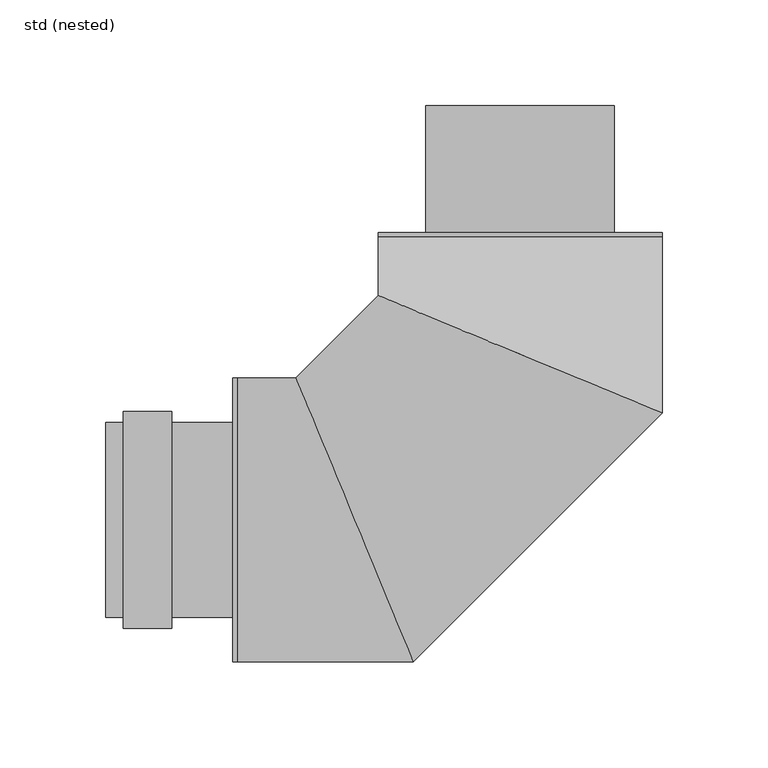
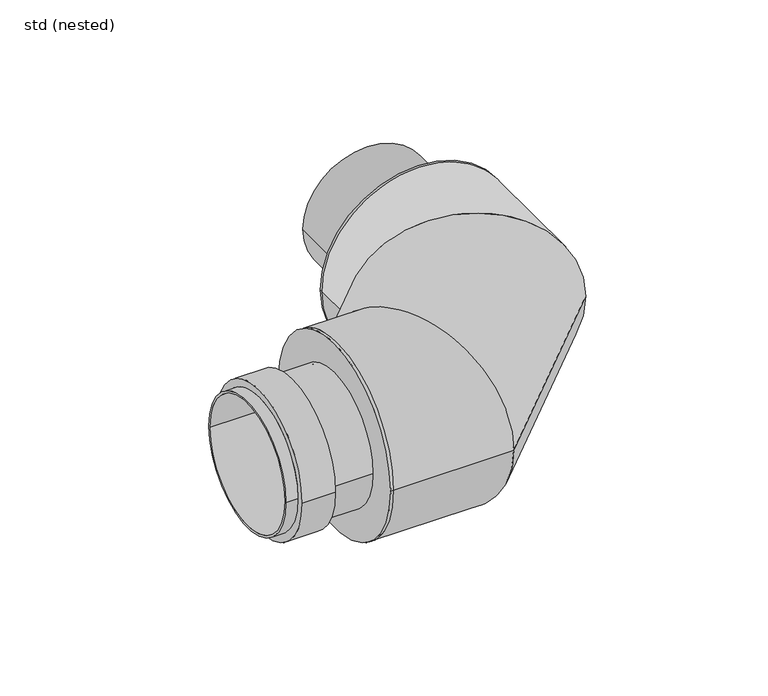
"""IFC4 building model written with IfcOpenShell, lengths in millimetres: pipe fitting geometry, ZZZ_do not use_PIF_ST_WPB_GM-X compound pipe bend_ACO : std (nested)."""

from ifc_helpers import new_model, si_unit, point, frame, origin, origin_2d, place, context, project, spatial, polyline, circle_curve, ellipse_curve, trimmed, segment, composite_curve, outline, extrude, source, transform, mapped, element, save
from ifc_brep_helpers import plane_surface, cylinder_surface, revolved_surface, advanced_brep


def std_nested_0b464fec(model_context):
    return source(origin(), model_context, "Body", "SolidModel", [
        advanced_brep(
        [(-187.4, -51.3, 0.0), (-187.4, 51.3, 0.0), (-164.6, 51.3, 0.0), (-164.6, -51.3, 0.0), (-195.6, 46.0, 0.0), (-195.6, -46.0, 0.0), (-195.6, -44.5, 0.0), (-195.6, 44.5, 0.0), (-135.6, 46.0, 0.0), (-135.6, -46.0, 0.0), (-135.6, 44.5, 0.0), (-135.6, -44.5, 0.0), (-187.4, 46.0, 0.0), (-187.4, -46.0, 0.0), (-164.6, -46.0, 0.0), (-164.6, 46.0, 0.0)],
        [
            (0, 1, circle_curve(frame((-187.4, 0.0, 0.0), z_axis=(1.0, 0.0, 0.0), x_axis=(0.0, -1.0, 0.0)), 51.3)),
            (1, 2),
            (2, 3, circle_curve(frame((-164.6, 0.0, 0.0), z_axis=(-1.0, 0.0, 0.0), x_axis=(0.0, -1.0, 0.0)), 51.3)),
            (3, 0),
            (1, 0, circle_curve(frame((-187.4, 0.0, 0.0), z_axis=(1.0, 0.0, 0.0), x_axis=(0.0, -1.0, 0.0)), 51.3)),
            (3, 2, circle_curve(frame((-164.6, 0.0, 0.0), z_axis=(-1.0, 0.0, 0.0), x_axis=(0.0, -1.0, 0.0)), 51.3)),
            (4, 5, circle_curve(frame((-195.6, 0.0, 0.0), z_axis=(-1.0, 0.0, 0.0), x_axis=(0.0, -1.0, 0.0)), 46.0)),
            (5, 4, circle_curve(frame((-195.6, 0.0, 0.0), z_axis=(-1.0, 0.0, 0.0), x_axis=(0.0, -1.0, 0.0)), 46.0)),
            (6, 7, circle_curve(frame((-195.6, 0.0, 0.0), z_axis=(1.0, 0.0, 0.0), x_axis=(0.0, -1.0, 0.0)), 44.5)),
            (7, 6, circle_curve(frame((-195.6, 0.0, 0.0), z_axis=(1.0, 0.0, 0.0), x_axis=(0.0, -1.0, 0.0)), 44.5)),
            (8, 9, circle_curve(frame((-135.6, 0.0, 0.0), z_axis=(1.0, 0.0, 0.0), x_axis=(0.0, -1.0, 0.0)), 46.0)),
            (9, 8, circle_curve(frame((-135.6, 0.0, 0.0), z_axis=(1.0, 0.0, 0.0), x_axis=(0.0, -1.0, 0.0)), 46.0)),
            (10, 11, circle_curve(frame((-135.6, 0.0, 0.0), z_axis=(-1.0, 0.0, 0.0), x_axis=(0.0, -1.0, 0.0)), 44.5)),
            (11, 10, circle_curve(frame((-135.6, 0.0, 0.0), z_axis=(-1.0, 0.0, 0.0), x_axis=(0.0, -1.0, 0.0)), 44.5)),
            (4, 12),
            (12, 13, circle_curve(frame((-187.4, 0.0, 0.0), z_axis=(-1.0, 0.0, 0.0), x_axis=(0.0, -1.0, 0.0)), 46.0)),
            (13, 5),
            (9, 14),
            (14, 15, circle_curve(frame((-164.6, 0.0, 0.0), z_axis=(1.0, 0.0, 0.0), x_axis=(0.0, -1.0, 0.0)), 46.0)),
            (15, 8),
            (13, 12, circle_curve(frame((-187.4, 0.0, 0.0), z_axis=(-1.0, 0.0, 0.0), x_axis=(0.0, -1.0, 0.0)), 46.0)),
            (15, 14, circle_curve(frame((-164.6, 0.0, 0.0), z_axis=(1.0, 0.0, 0.0), x_axis=(0.0, -1.0, 0.0)), 46.0)),
            (6, 11),
            (10, 7),
        ],
        [
            cylinder_surface(frame((-164.6, 0.0, 0.0), z_axis=(-1.0, 0.0, 0.0), x_axis=(0.0, -1.0, 0.0)), 51.3),
            plane_surface(frame((-195.6, -46.0, 0.0), z_axis=(-1.0, 0.0, 0.0), x_axis=(0.0, 0.0, 1.0))),
            plane_surface(frame((-135.6, -46.0, 0.0), z_axis=(1.0, 0.0, 0.0), x_axis=(0.0, 0.0, -1.0))),
            cylinder_surface(frame((-135.6, 0.0, 0.0), z_axis=(-1.0, 0.0, 0.0), x_axis=(0.0, -1.0, 0.0)), 46.0),
            revolved_surface(polyline([(-195.6, -44.5, 0.0), (-135.6, -44.5, 0.0)]), (-135.6, 0.0, 0.0), (-1.0, 0.0, 0.0)),
            plane_surface(frame((-187.4, -51.3, 0.0), z_axis=(-1.0, 0.0, 0.0), x_axis=(0.0, 0.0, 1.0))),
            plane_surface(frame((-164.6, -51.3, 0.0), z_axis=(1.0, 0.0, 0.0), x_axis=(0.0, 0.0, -1.0))),
        ],
        [
            (0, [[1, 2, 3, 4]]),
            (0, [[5, -4, 6, -2]]),
            (1, [[7, 8], [9, 10]]),
            (2, [[11, 12], [13, 14]]),
            (3, [[-7, 15, 16, 17]]),
            (3, [[-12, 18, 19, 20]]),
            (3, [[-8, -17, 21, -15]]),
            (3, [[-11, -20, 22, -18]]),
            (4, [[23, -13, 24, -9]]),
            (4, [[-23, -10, -24, -14]]),
            (5, [[-1, -5], [-16, -21]]),
            (6, [[-6, -3], [-19, -22]]),
        ],
    ),
        extrude(outline(composite_curve([segment(trimmed(circle_curve(origin_2d(), 44.5), [point((0.0, -44.5))], [point((0.0, 44.5))], False, "CARTESIAN"), True, "CONTINUOUS"), segment(trimmed(circle_curve(origin_2d(), 44.5), [point((0.0, 44.5))], [point((0.0, -44.5))], False, "CARTESIAN"), True, "CONTINUOUS")], self_intersect=False)), frame((0.0, 135.6, 0.0), z_axis=(0.0, 1.0, 0.0), x_axis=(0.0, 0.0, 1.0)), (0.0, 0.0, 1.0), 60.0),
        advanced_brep(
        [(-133.6, -67.0, 0.0), (-133.6, 67.0, 0.0), (-135.6, 67.0, 0.0), (-135.6, -67.0, 0.0), (-50.5087594, -67.0, 0.0), (-106.0133767, 67.0, 0.0), (67.0, 50.5087594, 0.0), (-67.0, 106.0133767, 0.0), (67.0, 133.6, 0.0), (-67.0, 133.6, 0.0), (-67.0, 135.6, 0.0), (67.0, 135.6, 0.0)],
        [
            (0, 1, circle_curve(frame((-133.6, 0.0, 0.0), z_axis=(-1.0, 0.0, 0.0), x_axis=(0.0, 1.0, 0.0)), 67.0)),
            (1, 2),
            (2, 3, circle_curve(frame((-135.6, 0.0, 0.0), z_axis=(1.0, 0.0, 0.0), x_axis=(0.0, 1.0, 0.0)), 67.0)),
            (3, 0),
            (1, 0, circle_curve(frame((-133.6, 0.0, 0.0), z_axis=(-1.0, 0.0, 0.0), x_axis=(0.0, 1.0, 0.0)), 67.0)),
            (3, 2, circle_curve(frame((-135.6, 0.0, 0.0), z_axis=(1.0, 0.0, 0.0), x_axis=(0.0, 1.0, 0.0)), 67.0)),
            (0, 4),
            (4, 5, ellipse_curve(frame((-78.2610681, 0.0, 0.0), z_axis=(-0.9238795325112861, -0.3826834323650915, 0.0), x_axis=(-0.3826834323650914, 0.9238795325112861, 0.0)), 72.5202774, 67.0)),
            (5, 1),
            (5, 4, ellipse_curve(frame((-78.2610681, 0.0, 0.0), z_axis=(-0.9238795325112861, -0.3826834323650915, 0.0), x_axis=(-0.3826834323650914, 0.9238795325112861, 0.0)), 72.5202774, 67.0)),
            (4, 6),
            (6, 7, ellipse_curve(frame((0.0, 78.2610681, 0.0), z_axis=(-0.38268343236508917, -0.9238795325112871, 0.0), x_axis=(-0.9238795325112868, 0.3826834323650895, 0.0)), 72.5202774, 67.0)),
            (7, 5),
            (7, 6, ellipse_curve(frame((0.0, 78.2610681, 0.0), z_axis=(-0.38268343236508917, -0.9238795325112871, 0.0), x_axis=(-0.9238795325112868, 0.3826834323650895, 0.0)), 72.5202774, 67.0)),
            (6, 8),
            (8, 9, circle_curve(frame((0.0, 133.6, 0.0), z_axis=(0.0, -1.0, 0.0), x_axis=(-1.0, 0.0, 0.0)), 67.0)),
            (9, 7),
            (9, 8, circle_curve(frame((0.0, 133.6, 0.0), z_axis=(0.0, -1.0, 0.0), x_axis=(-1.0, 0.0, 0.0)), 67.0)),
            (10, 11, circle_curve(frame((0.0, 135.6, 0.0), z_axis=(0.0, 1.0, 0.0), x_axis=(1.0, 0.0, 0.0)), 67.0)),
            (11, 10, circle_curve(frame((0.0, 135.6, 0.0), z_axis=(0.0, 1.0, 0.0), x_axis=(1.0, 0.0, 0.0)), 67.0)),
            (8, 11),
            (10, 9),
        ],
        [
            cylinder_surface(frame((-133.6, 0.0, 0.0), z_axis=(-1.0, 0.0, 0.0), x_axis=(0.0, 1.0, 0.0)), 67.0),
            cylinder_surface(frame((-78.2610681, 0.0, 0.0), z_axis=(-0.7071067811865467, -0.7071067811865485, 0.0), x_axis=(-0.7071067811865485, 0.7071067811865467, 0.0)), 67.0),
            cylinder_surface(frame((0.0, 78.2610681, 0.0), z_axis=(0.0, -1.0, 0.0), x_axis=(-1.0, 0.0, 0.0)), 67.0),
            plane_surface(frame((-135.6, 67.0, 0.0), z_axis=(-1.0, 0.0, 0.0), x_axis=(0.0, 0.0, 1.0))),
            plane_surface(frame((67.0, 135.6, 0.0), z_axis=(0.0, 1.0, 0.0), x_axis=(0.0, 0.0, 1.0))),
            cylinder_surface(frame((0.0, 133.6, 0.0), z_axis=(0.0, 1.0, 0.0), x_axis=(1.0, 0.0, 0.0)), 67.0),
        ],
        [
            (0, [[1, 2, 3, 4]]),
            (0, [[5, -4, 6, -2]]),
            (0, [[7, 8, 9, -1]]),
            (0, [[-7, -5, -9, 10]]),
            (1, [[-8, 11, 12, 13]]),
            (1, [[-10, -13, 14, -11]]),
            (2, [[-12, 15, 16, 17]]),
            (2, [[-14, -17, 18, -15]]),
            (3, [[-3, -6]]),
            (4, [[19, 20]]),
            (5, [[-16, 21, -19, 22]]),
            (5, [[-18, -22, -20, -21]]),
        ],
    ),
    ])


if __name__ == "__main__":
    model = new_model("IFC4")
    model_context = context("Model", 3, world=origin())
    ifc_project = project(units=[si_unit("LENGTHUNIT", "METRE", prefix="MILLI")], contexts=[model_context])
    site = spatial("IfcSite", under=ifc_project)
    building = spatial("IfcBuilding", under=site)
    placement = place(None, origin())
    std_nested_shape = std_nested_0b464fec(model_context)
    element("IfcPipeFitting", 1, ObjectType="ZZZ_do not use_PIF_ST_WPB_GM-X compound pipe bend_ACO : std (nested)", at=placement, inside=building, context=model_context, shape_type="MappedRepresentation", body=[
        mapped(std_nested_shape, transform((0.0, 0.0, 0.0), x_axis=(1.0, 0.0, 0.0), y_axis=(0.0, 1.0, 0.0), z_axis=(0.0, 0.0, 1.0))),
    ])
    save(model, "model.ifc")
